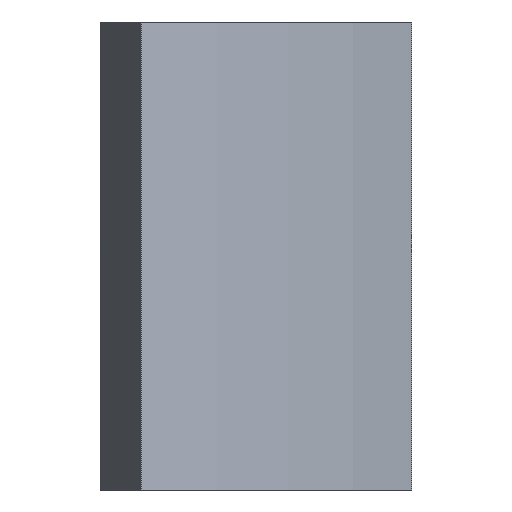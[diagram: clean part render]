
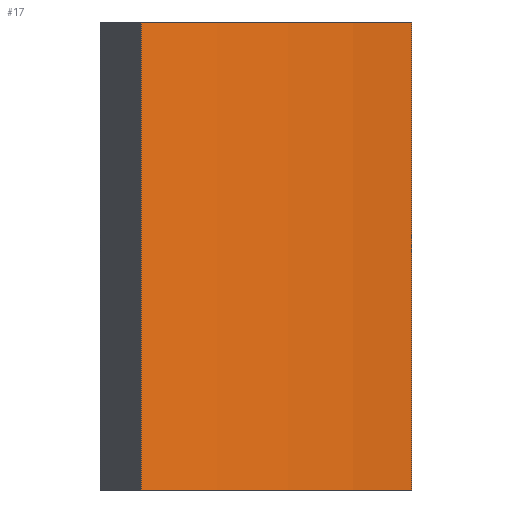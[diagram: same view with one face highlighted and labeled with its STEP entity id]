
A CAD part, front view. The second image highlights one B-rep face of the part: STEP entity #17.
In plain terms, the highlighted cylindrical face has radius 7.65 mm (diameter 15.3 mm), a partial arc.
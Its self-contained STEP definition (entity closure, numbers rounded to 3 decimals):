
#17 = ADVANCED_FACE('',(#18),#33,.T.);
#18 = FACE_BOUND('',#19,.T.);
#19 = EDGE_LOOP('',(#20,#56,#82,#111));
#20 = ORIENTED_EDGE('',*,*,#21,.F.);
#21 = EDGE_CURVE('',#22,#24,#26,.T.);
#22 = VERTEX_POINT('',#23);
#23 = CARTESIAN_POINT('',(3.355,-6.875,6.55));
#24 = VERTEX_POINT('',#25);
#25 = CARTESIAN_POINT('',(5.956,-4.801,6.55));
#26 = SURFACE_CURVE('',#27,(#32,#44),.PCURVE_S1.);
#27 = CIRCLE('',#28,7.65);
#28 = AXIS2_PLACEMENT_3D('',#29,#30,#31);
#29 = CARTESIAN_POINT('',(0.,0.,6.55));
#30 = DIRECTION('',(0.,0.,1.));
#31 = DIRECTION('',(1.,0.,-0.));
#32 = PCURVE('',#33,#38);
#33 = CYLINDRICAL_SURFACE('',#34,7.65);
#34 = AXIS2_PLACEMENT_3D('',#35,#36,#37);
#35 = CARTESIAN_POINT('',(0.,0.,2.05));
#36 = DIRECTION('',(0.,0.,1.));
#37 = DIRECTION('',(1.,0.,-0.));
#38 = DEFINITIONAL_REPRESENTATION('',(#39),#43);
#39 = LINE('',#40,#41);
#40 = CARTESIAN_POINT('',(0.,4.5));
#41 = VECTOR('',#42,1.);
#42 = DIRECTION('',(1.,0.));
#43 = ( GEOMETRIC_REPRESENTATION_CONTEXT(2) 
PARAMETRIC_REPRESENTATION_CONTEXT() REPRESENTATION_CONTEXT('2D SPACE',''
  ) );
#44 = PCURVE('',#45,#50);
#45 = PLANE('',#46);
#46 = AXIS2_PLACEMENT_3D('',#47,#48,#49);
#47 = CARTESIAN_POINT('',(0.,0.,6.55));
#48 = DIRECTION('',(0.,0.,1.));
#49 = DIRECTION('',(1.,0.,-0.));
#50 = DEFINITIONAL_REPRESENTATION('',(#51),#55);
#51 = CIRCLE('',#52,7.65);
#52 = AXIS2_PLACEMENT_2D('',#53,#54);
#53 = CARTESIAN_POINT('',(0.,0.));
#54 = DIRECTION('',(1.,0.));
#55 = ( GEOMETRIC_REPRESENTATION_CONTEXT(2) 
PARAMETRIC_REPRESENTATION_CONTEXT() REPRESENTATION_CONTEXT('2D SPACE',''
  ) );
#56 = ORIENTED_EDGE('',*,*,#57,.F.);
#57 = EDGE_CURVE('',#58,#22,#60,.T.);
#58 = VERTEX_POINT('',#59);
#59 = CARTESIAN_POINT('',(3.355,-6.875,2.05));
#60 = SURFACE_CURVE('',#61,(#65,#71),.PCURVE_S1.);
#61 = LINE('',#62,#63);
#62 = CARTESIAN_POINT('',(3.355,-6.875,2.05));
#63 = VECTOR('',#64,1.);
#64 = DIRECTION('',(0.,0.,1.));
#65 = PCURVE('',#33,#66);
#66 = DEFINITIONAL_REPRESENTATION('',(#67),#70);
#67 = B_SPLINE_CURVE_WITH_KNOTS('',1,(#68,#69),.UNSPECIFIED.,.F.,.F.,(2,
    2),(0.,4.5),.PIECEWISE_BEZIER_KNOTS.);
#68 = CARTESIAN_POINT('',(5.166,0.));
#69 = CARTESIAN_POINT('',(5.166,4.5));
#70 = ( GEOMETRIC_REPRESENTATION_CONTEXT(2) 
PARAMETRIC_REPRESENTATION_CONTEXT() REPRESENTATION_CONTEXT('2D SPACE',''
  ) );
#71 = PCURVE('',#72,#77);
#72 = PLANE('',#73);
#73 = AXIS2_PLACEMENT_3D('',#74,#75,#76);
#74 = CARTESIAN_POINT('',(0.,0.,2.04));
#75 = DIRECTION('',(0.899,0.439,-0.));
#76 = DIRECTION('',(0.439,-0.899,0.));
#77 = DEFINITIONAL_REPRESENTATION('',(#78),#81);
#78 = B_SPLINE_CURVE_WITH_KNOTS('',1,(#79,#80),.UNSPECIFIED.,.F.,.F.,(2,
    2),(0.,4.5),.PIECEWISE_BEZIER_KNOTS.);
#79 = CARTESIAN_POINT('',(7.65,-0.01));
#80 = CARTESIAN_POINT('',(7.65,-4.51));
#81 = ( GEOMETRIC_REPRESENTATION_CONTEXT(2) 
PARAMETRIC_REPRESENTATION_CONTEXT() REPRESENTATION_CONTEXT('2D SPACE',''
  ) );
#82 = ORIENTED_EDGE('',*,*,#83,.T.);
#83 = EDGE_CURVE('',#58,#84,#86,.T.);
#84 = VERTEX_POINT('',#85);
#85 = CARTESIAN_POINT('',(5.956,-4.801,2.05));
#86 = SURFACE_CURVE('',#87,(#92,#99),.PCURVE_S1.);
#87 = CIRCLE('',#88,7.65);
#88 = AXIS2_PLACEMENT_3D('',#89,#90,#91);
#89 = CARTESIAN_POINT('',(0.,0.,2.05));
#90 = DIRECTION('',(0.,0.,1.));
#91 = DIRECTION('',(1.,0.,-0.));
#92 = PCURVE('',#33,#93);
#93 = DEFINITIONAL_REPRESENTATION('',(#94),#98);
#94 = LINE('',#95,#96);
#95 = CARTESIAN_POINT('',(0.,0.));
#96 = VECTOR('',#97,1.);
#97 = DIRECTION('',(1.,0.));
#98 = ( GEOMETRIC_REPRESENTATION_CONTEXT(2) 
PARAMETRIC_REPRESENTATION_CONTEXT() REPRESENTATION_CONTEXT('2D SPACE',''
  ) );
#99 = PCURVE('',#100,#105);
#100 = PLANE('',#101);
#101 = AXIS2_PLACEMENT_3D('',#102,#103,#104);
#102 = CARTESIAN_POINT('',(0.,0.,2.05));
#103 = DIRECTION('',(0.,0.,1.));
#104 = DIRECTION('',(1.,0.,-0.));
#105 = DEFINITIONAL_REPRESENTATION('',(#106),#110);
#106 = CIRCLE('',#107,7.65);
#107 = AXIS2_PLACEMENT_2D('',#108,#109);
#108 = CARTESIAN_POINT('',(0.,0.));
#109 = DIRECTION('',(1.,0.));
#110 = ( GEOMETRIC_REPRESENTATION_CONTEXT(2) 
PARAMETRIC_REPRESENTATION_CONTEXT() REPRESENTATION_CONTEXT('2D SPACE',''
  ) );
#111 = ORIENTED_EDGE('',*,*,#112,.T.);
#112 = EDGE_CURVE('',#84,#24,#113,.T.);
#113 = SURFACE_CURVE('',#114,(#118,#124),.PCURVE_S1.);
#114 = LINE('',#115,#116);
#115 = CARTESIAN_POINT('',(5.956,-4.801,2.05));
#116 = VECTOR('',#117,1.);
#117 = DIRECTION('',(0.,0.,1.));
#118 = PCURVE('',#33,#119);
#119 = DEFINITIONAL_REPRESENTATION('',(#120),#123);
#120 = B_SPLINE_CURVE_WITH_KNOTS('',1,(#121,#122),.UNSPECIFIED.,.F.,.F.,
  (2,2),(0.,4.5),.PIECEWISE_BEZIER_KNOTS.);
#121 = CARTESIAN_POINT('',(5.605,0.));
#122 = CARTESIAN_POINT('',(5.605,4.5));
#123 = ( GEOMETRIC_REPRESENTATION_CONTEXT(2) 
PARAMETRIC_REPRESENTATION_CONTEXT() REPRESENTATION_CONTEXT('2D SPACE',''
  ) );
#124 = PCURVE('',#125,#130);
#125 = PLANE('',#126);
#126 = AXIS2_PLACEMENT_3D('',#127,#128,#129);
#127 = CARTESIAN_POINT('',(17.868,-14.403,2.04));
#128 = DIRECTION('',(-0.628,-0.779,0.));
#129 = DIRECTION('',(-0.779,0.628,0.));
#130 = DEFINITIONAL_REPRESENTATION('',(#131),#134);
#131 = B_SPLINE_CURVE_WITH_KNOTS('',1,(#132,#133),.UNSPECIFIED.,.F.,.F.,
  (2,2),(0.,4.5),.PIECEWISE_BEZIER_KNOTS.);
#132 = CARTESIAN_POINT('',(15.3,-0.01));
#133 = CARTESIAN_POINT('',(15.3,-4.51));
#134 = ( GEOMETRIC_REPRESENTATION_CONTEXT(2) 
PARAMETRIC_REPRESENTATION_CONTEXT() REPRESENTATION_CONTEXT('2D SPACE',''
  ) );
